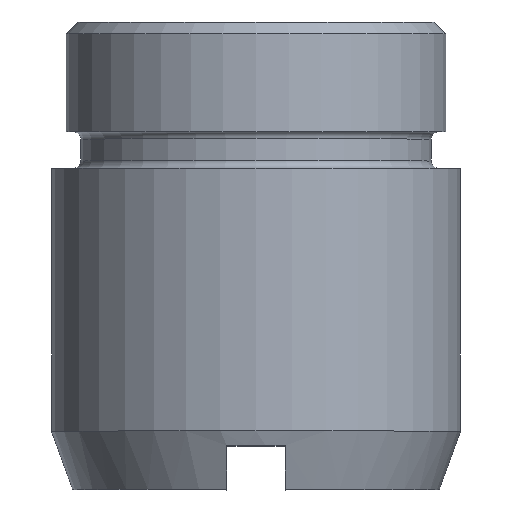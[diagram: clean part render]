
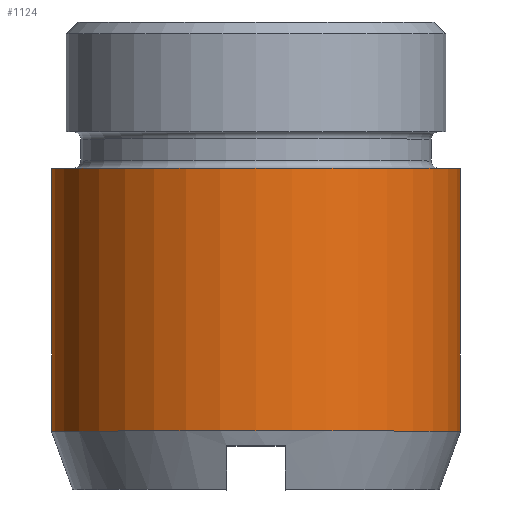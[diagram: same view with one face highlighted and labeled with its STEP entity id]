
A CAD part, top view. The second image highlights one B-rep face of the part: STEP entity #1124.
In plain terms, the highlighted cylindrical face has radius 14 mm (diameter 28 mm), a partial arc.
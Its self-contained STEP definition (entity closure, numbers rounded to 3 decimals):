
#188=CARTESIAN_POINT('',(0.,-10.,0.));
#189=DIRECTION('',(0.,1.,0.));
#190=DIRECTION('',(-1.,0.,0.));
#191=AXIS2_PLACEMENT_3D('',#188,#189,#190);
#352=CARTESIAN_POINT('',(0.,-28.,0.));
#353=DIRECTION('',(0.,1.,0.));
#354=DIRECTION('',(-1.,0.,0.));
#355=AXIS2_PLACEMENT_3D('',#352,#353,#354);
#387=DIRECTION('',(0.,1.,0.));
#388=VECTOR('',#387,18.);
#389=CARTESIAN_POINT('',(-14.,-28.,0.));
#390=LINE('',#389,#388);
#394=DIRECTION('',(0.,1.,0.));
#395=VECTOR('',#394,18.);
#396=CARTESIAN_POINT('',(14.,-28.,0.));
#397=LINE('',#396,#395);
#775=CARTESIAN_POINT('',(14.,-28.,0.));
#776=CARTESIAN_POINT('',(14.,-10.,0.));
#777=VERTEX_POINT('',#775);
#778=VERTEX_POINT('',#776);
#779=CARTESIAN_POINT('',(-14.,-28.,0.));
#780=CARTESIAN_POINT('',(-14.,-10.,0.));
#781=VERTEX_POINT('',#779);
#782=VERTEX_POINT('',#780);
#1113=CARTESIAN_POINT('',(0.,-19.,0.));
#1114=DIRECTION('',(0.,1.,0.));
#1115=DIRECTION('',(1.,0.,0.));
#1116=AXIS2_PLACEMENT_3D('',#1113,#1114,#1115);
#1117=CYLINDRICAL_SURFACE('',#1116,14.);
#1118=ORIENTED_EDGE('',*,*,#1099,.F.);
#1119=ORIENTED_EDGE('',*,*,#974,.T.);
#1120=ORIENTED_EDGE('',*,*,#954,.T.);
#1121=ORIENTED_EDGE('',*,*,#971,.F.);
#1122=EDGE_LOOP('',(#1118,#1119,#1120,#1121));
#1123=FACE_OUTER_BOUND('',#1122,.F.);
#192=CIRCLE('',#191,14.);
#356=CIRCLE('',#355,14.);
#954=EDGE_CURVE('',#782,#778,#192,.T.);
#971=EDGE_CURVE('',#777,#778,#397,.T.);
#974=EDGE_CURVE('',#781,#782,#390,.T.);
#1099=EDGE_CURVE('',#781,#777,#356,.T.);
#1124=ADVANCED_FACE('',(#1123),#1117,.T.);
